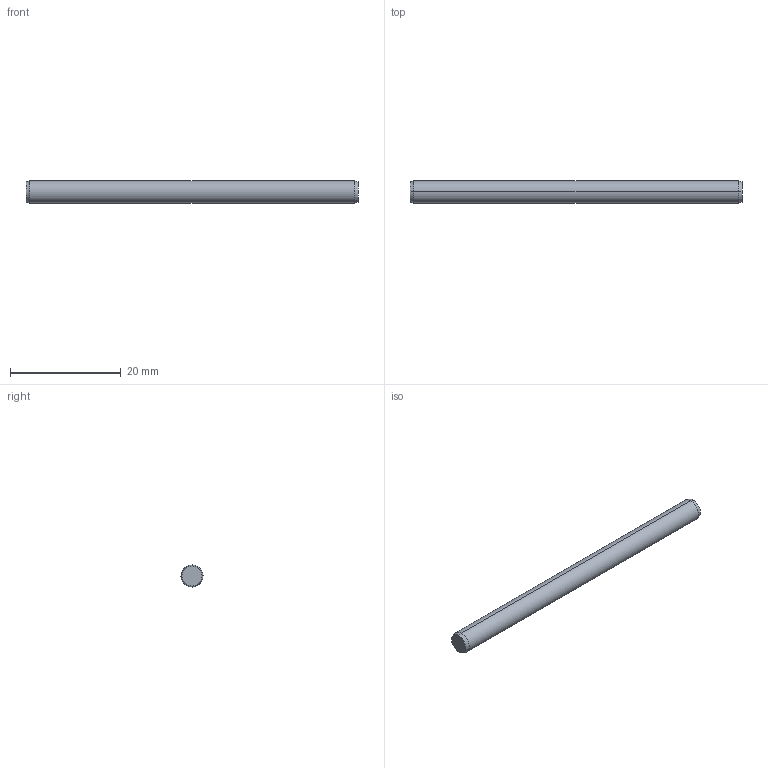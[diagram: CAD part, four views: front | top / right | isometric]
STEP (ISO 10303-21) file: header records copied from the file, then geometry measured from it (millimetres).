
FILE_DESCRIPTION (( 'STEP AP203' ), '1' );
FILE_NAME ('P1206.040-060.step', '2017-06-14T08:13:38', ( 'User' ), ( '' ), 'SwSTEP 2.0', 'SolidWorks 2009', '' );
FILE_SCHEMA (( 'CONFIG_CONTROL_DESIGN' ));
Length unit declared in the file: millimetre
Products named in the file (1): P1206.040-060
Bounding box: 60 x 4 x 4 mm (x, y, z)
Volume: 752.4 mm3; surface area: 774.4 mm2
Topology: 1 solids, 1 shells, 8 faces, 14 edges, 8 vertices
Faces by surface type: cone 4, cylinder 2, plane 2
Entity records: 271 total; most frequent: DIRECTION 40, CARTESIAN_POINT 31, ORIENTED_EDGE 28, AXIS2_PLACEMENT_3D 17, EDGE_CURVE 14, ADVANCED_FACE 8, EDGE_LOOP 8, VERTEX_POINT 8
